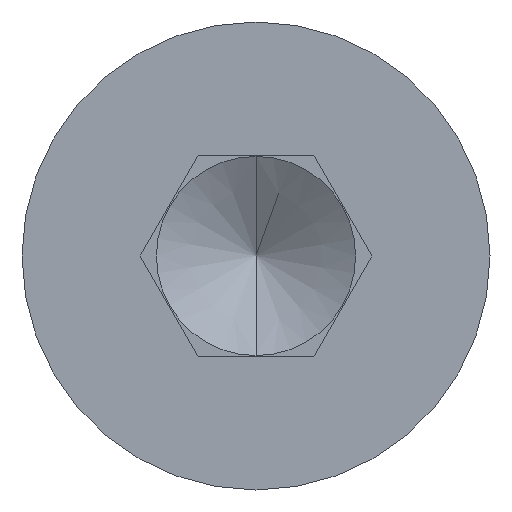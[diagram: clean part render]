
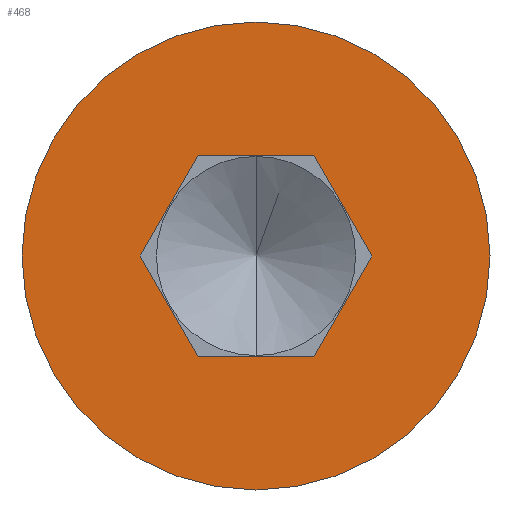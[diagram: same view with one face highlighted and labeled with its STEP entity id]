
A CAD part, left-side view. The second image highlights one B-rep face of the part: STEP entity #468.
In plain terms, the highlighted planar face has unit normal (-1, 0, 0).
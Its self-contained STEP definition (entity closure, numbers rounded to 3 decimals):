
#25 = FACE_BOUND ( 'NONE', #673, .T. ) ;
#26 = LINE ( 'NONE', #188, #349 ) ;
#40 = VECTOR ( 'NONE', #730, 1000. ) ;
#46 = VERTEX_POINT ( 'NONE', #413 ) ;
#48 = LINE ( 'NONE', #181, #378 ) ;
#55 = CARTESIAN_POINT ( 'NONE',  ( -4., 1.732, 0. ) ) ;
#64 = VERTEX_POINT ( 'NONE', #55 ) ;
#65 = CIRCLE ( 'NONE', #436, 3.5 ) ;
#71 = LINE ( 'NONE', #739, #713 ) ;
#83 = DIRECTION ( 'NONE',  ( 1., 0., 0. ) ) ;
#91 = CARTESIAN_POINT ( 'NONE',  ( -4., 0., 3.5 ) ) ;
#92 = VERTEX_POINT ( 'NONE', #738 ) ;
#121 = EDGE_CURVE ( 'NONE', #246, #64, #26, .T. ) ;
#134 = CARTESIAN_POINT ( 'NONE',  ( -4., 0.866, -1.5 ) ) ;
#169 = EDGE_LOOP ( 'NONE', ( #657, #462 ) ) ;
#173 = PLANE ( 'NONE',  #225 ) ;
#178 = DIRECTION ( 'NONE',  ( -1., 0., 0. ) ) ;
#181 = CARTESIAN_POINT ( 'NONE',  ( -4., -0.866, -1.5 ) ) ;
#188 = CARTESIAN_POINT ( 'NONE',  ( -4., 0.866, -1.5 ) ) ;
#206 = FACE_OUTER_BOUND ( 'NONE', #169, .T. ) ;
#208 = EDGE_CURVE ( 'NONE', #800, #768, #522, .T. ) ;
#225 = AXIS2_PLACEMENT_3D ( 'NONE', #543, #178, #609 ) ;
#226 = VERTEX_POINT ( 'NONE', #631 ) ;
#246 = VERTEX_POINT ( 'NONE', #134 ) ;
#255 = VERTEX_POINT ( 'NONE', #257 ) ;
#257 = CARTESIAN_POINT ( 'NONE',  ( -4., 0.866, 1.5 ) ) ;
#262 = DIRECTION ( 'NONE',  ( 0., -1., 0. ) ) ;
#264 = DIRECTION ( 'NONE',  ( 0., 1., 0. ) ) ;
#277 = EDGE_CURVE ( 'NONE', #226, #246, #439, .T. ) ;
#298 = CARTESIAN_POINT ( 'NONE',  ( -4., -1.732, 0. ) ) ;
#303 = DIRECTION ( 'NONE',  ( 0., 0.5, -0.866 ) ) ;
#322 = DIRECTION ( 'NONE',  ( 1., 0., 0. ) ) ;
#349 = VECTOR ( 'NONE', #620, 1000. ) ;
#350 = ORIENTED_EDGE ( 'NONE', *, *, #417, .T. ) ;
#366 = LINE ( 'NONE', #298, #40 ) ;
#378 = VECTOR ( 'NONE', #303, 1000. ) ;
#384 = LINE ( 'NONE', #697, #699 ) ;
#392 = ORIENTED_EDGE ( 'NONE', *, *, #277, .T. ) ;
#413 = CARTESIAN_POINT ( 'NONE',  ( -4., -1.732, 0. ) ) ;
#417 = EDGE_CURVE ( 'NONE', #92, #46, #366, .T. ) ;
#436 = AXIS2_PLACEMENT_3D ( 'NONE', #440, #83, #505 ) ;
#439 = LINE ( 'NONE', #700, #610 ) ;
#440 = CARTESIAN_POINT ( 'NONE',  ( -4., 0., 0. ) ) ;
#459 = ORIENTED_EDGE ( 'NONE', *, *, #121, .T. ) ;
#462 = ORIENTED_EDGE ( 'NONE', *, *, #719, .F. ) ;
#468 = ADVANCED_FACE ( 'NONE', ( #25, #206 ), #173, .T. ) ;
#485 = EDGE_CURVE ( 'NONE', #46, #226, #48, .T. ) ;
#505 = DIRECTION ( 'NONE',  ( 0., 0., 1. ) ) ;
#508 = EDGE_CURVE ( 'NONE', #64, #255, #71, .T. ) ;
#518 = ORIENTED_EDGE ( 'NONE', *, *, #622, .T. ) ;
#522 = CIRCLE ( 'NONE', #586, 3.5 ) ;
#543 = CARTESIAN_POINT ( 'NONE',  ( -4., 1.75, 0. ) ) ;
#586 = AXIS2_PLACEMENT_3D ( 'NONE', #691, #322, #756 ) ;
#609 = DIRECTION ( 'NONE',  ( 0., 0., 1. ) ) ;
#610 = VECTOR ( 'NONE', #264, 1000. ) ;
#620 = DIRECTION ( 'NONE',  ( 0., 0.5, 0.866 ) ) ;
#622 = EDGE_CURVE ( 'NONE', #255, #92, #384, .T. ) ;
#631 = CARTESIAN_POINT ( 'NONE',  ( -4., -0.866, -1.5 ) ) ;
#652 = ORIENTED_EDGE ( 'NONE', *, *, #508, .T. ) ;
#657 = ORIENTED_EDGE ( 'NONE', *, *, #208, .F. ) ;
#673 = EDGE_LOOP ( 'NONE', ( #392, #459, #652, #518, #350, #729 ) ) ;
#691 = CARTESIAN_POINT ( 'NONE',  ( -4., 0., 0. ) ) ;
#697 = CARTESIAN_POINT ( 'NONE',  ( -4., -0.866, 1.5 ) ) ;
#699 = VECTOR ( 'NONE', #262, 1000. ) ;
#700 = CARTESIAN_POINT ( 'NONE',  ( -4., 0.866, -1.5 ) ) ;
#704 = CARTESIAN_POINT ( 'NONE',  ( -4., 0., -3.5 ) ) ;
#713 = VECTOR ( 'NONE', #798, 1000. ) ;
#719 = EDGE_CURVE ( 'NONE', #768, #800, #65, .T. ) ;
#729 = ORIENTED_EDGE ( 'NONE', *, *, #485, .T. ) ;
#730 = DIRECTION ( 'NONE',  ( 0., -0.5, -0.866 ) ) ;
#738 = CARTESIAN_POINT ( 'NONE',  ( -4., -0.866, 1.5 ) ) ;
#739 = CARTESIAN_POINT ( 'NONE',  ( -4., 0.866, 1.5 ) ) ;
#756 = DIRECTION ( 'NONE',  ( 0., 0., 1. ) ) ;
#768 = VERTEX_POINT ( 'NONE', #704 ) ;
#798 = DIRECTION ( 'NONE',  ( 0., -0.5, 0.866 ) ) ;
#800 = VERTEX_POINT ( 'NONE', #91 ) ;
